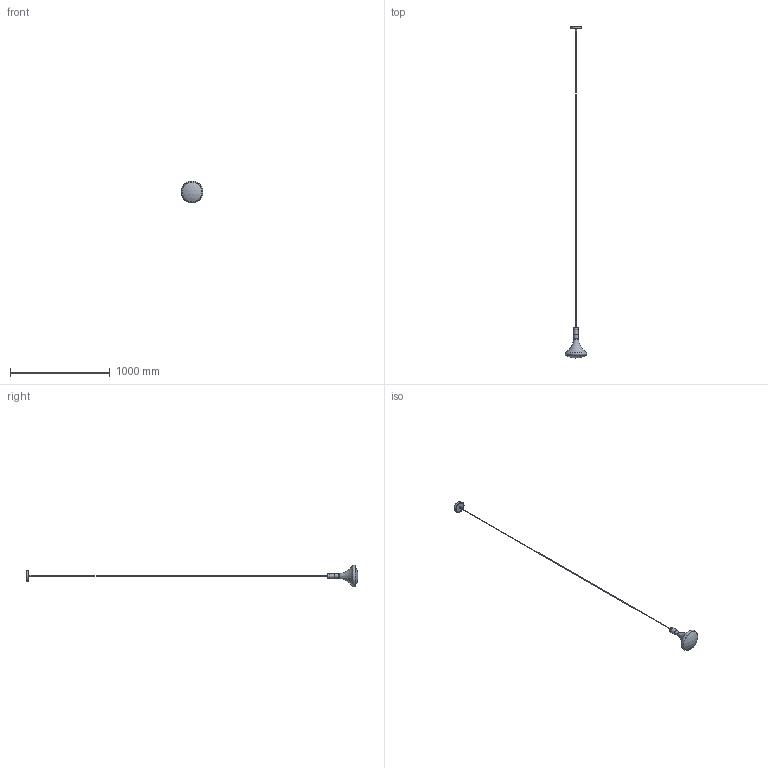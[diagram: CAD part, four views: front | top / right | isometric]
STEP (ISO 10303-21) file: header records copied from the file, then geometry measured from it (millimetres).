
FILE_DESCRIPTION(/* description */ (''),/* implementation_level */ '2;1');
FILE_NAME(/* name */ 'C:\Users\Giulia\Desktop\1815 - CATHODE.stp',/* time_stamp */ '2015-12-22T09:25:34+01:00',/* author */ ('Giulia'),/* organization */ (''),/* preprocessor_version */ 'ST-DEVELOPER v16.1',/* originating_system */ 'Autodesk Inventor 2016',/* authorisation */ '');
FILE_SCHEMA (('AUTOMOTIVE_DESIGN { 1 0 10303 214 3 1 1 }'));
Length unit declared in the file: millimetre
Products named in the file (4): corpo; diffusore; 3000 R 120x28; Assieme2
Assembly tree (3 placements, depth 2):
  Assieme2
    corpo
    diffusore
    3000 R 120x28
Bounding box: 220.33 x 3331.86 x 220.33 mm (x, y, z)
Volume: 853861.9 mm3; surface area: 394123.6 mm2
Topology: 5 solids, 5 shells, 57 faces, 93 edges, 58 vertices
Faces by surface type: cylinder 22, plane 20, torus 7, cone 6, sphere 2
Full cylindrical faces by diameter (mm): 4.5 x1, 5 x1, 6.6 x1, 6.75 x1, 8.917 x2, 15 x2, 19.5 x2, 22 x1, 23 x1, 24 x1, 25 x2, 35 x1, 36 x1, 43 x1, 46.5 x1, 49.5 x1, 105 x1, 120 x1
Entity records: 1255 total; most frequent: DIRECTION 234, CARTESIAN_POINT 170, AXIS2_PLACEMENT_3D 117, EDGE_LOOP 108, ORIENTED_EDGE 108, FACE_OUTER_BOUND 57, ADVANCED_FACE 57, CIRCLE 53
